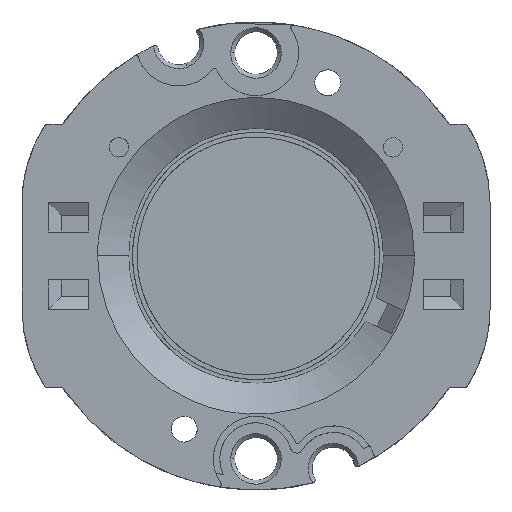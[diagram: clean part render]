
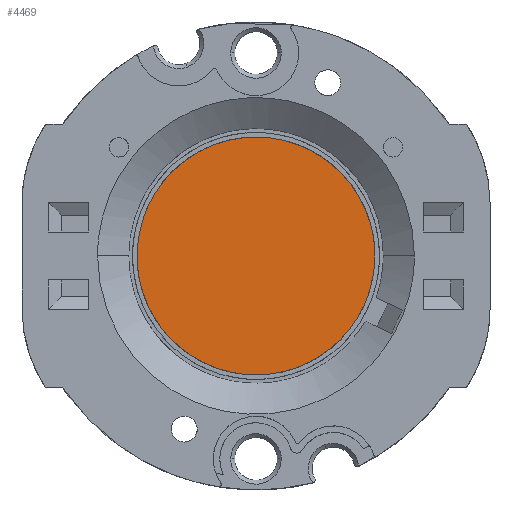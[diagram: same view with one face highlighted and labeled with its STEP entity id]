
A CAD part, top view. The second image highlights one B-rep face of the part: STEP entity #4469.
In plain terms, the highlighted planar face has unit normal (0, 0, 1).
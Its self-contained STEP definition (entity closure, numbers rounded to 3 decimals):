
#286 = CARTESIAN_POINT ( 'NONE',  ( 4.633, -8.039, 1.54 ) ) ;
#445 = PLANE ( 'NONE',  #4664 ) ;
#639 = B_SPLINE_CURVE_WITH_KNOTS ( 'NONE', 3,
 ( #3742, #3901, #9295, #1322, #7895, #2960, #3707, #8625, #2249, #6716, #2884, #3514, #10182, #10150, #4714, #7498, #1966, #5277 ),
 .UNSPECIFIED., .F., .F.,
 ( 4, 2, 2, 2, 2, 2, 2, 2, 4 ),
 ( 0., 0.125, 0.25, 0.375, 0.5, 0.625, 0.75, 0.875, 1. ),
 .UNSPECIFIED. ) ;
#1102 = CARTESIAN_POINT ( 'NONE',  ( 1.204, -9.2, 1.54 ) ) ;
#1322 = CARTESIAN_POINT ( 'NONE',  ( -8.039, 4.633, 1.54 ) ) ;
#1700 = EDGE_CURVE ( 'NONE', #10093, #8017, #639, .T. ) ;
#1883 = CARTESIAN_POINT ( 'NONE',  ( -2.408, -8.961, 1.54 ) ) ;
#1966 = CARTESIAN_POINT ( 'NONE',  ( 9.2, 1.204, 1.54 ) ) ;
#2249 = CARTESIAN_POINT ( 'NONE',  ( -1.204, 9.2, 1.54 ) ) ;
#2487 = DIRECTION ( 'NONE',  ( 0., 0., 1. ) ) ;
#2698 = CARTESIAN_POINT ( 'NONE',  ( -5.654, -7.357, 1.54 ) ) ;
#2884 = CARTESIAN_POINT ( 'NONE',  ( 2.408, 8.961, 1.54 ) ) ;
#2960 = CARTESIAN_POINT ( 'NONE',  ( -5.654, 7.357, 1.54 ) ) ;
#3036 = CARTESIAN_POINT ( 'NONE',  ( 9.2, 0., 1.54 ) ) ;
#3407 = CARTESIAN_POINT ( 'NONE',  ( 9.2, -1.204, 1.54 ) ) ;
#3510 = CARTESIAN_POINT ( 'NONE',  ( -8.039, -4.633, 1.54 ) ) ;
#3514 = CARTESIAN_POINT ( 'NONE',  ( 4.633, 8.039, 1.54 ) ) ;
#3707 = CARTESIAN_POINT ( 'NONE',  ( -4.633, 8.039, 1.54 ) ) ;
#3742 = CARTESIAN_POINT ( 'NONE',  ( -9.2, 0., 1.54 ) ) ;
#3901 = CARTESIAN_POINT ( 'NONE',  ( -9.2, 1.204, 1.54 ) ) ;
#4191 = ORIENTED_EDGE ( 'NONE', *, *, #8291, .F. ) ;
#4294 = CARTESIAN_POINT ( 'NONE',  ( 8.039, -4.633, 1.54 ) ) ;
#4332 = CARTESIAN_POINT ( 'NONE',  ( -9.2, -1.204, 1.54 ) ) ;
#4469 = ADVANCED_FACE ( 'NONE', ( #8399 ), #445, .T. ) ;
#4561 = CARTESIAN_POINT ( 'NONE',  ( -9.2, 0., 1.54 ) ) ;
#4664 = AXIS2_PLACEMENT_3D ( 'NONE', #7333, #2487, #8141 ) ;
#4714 = CARTESIAN_POINT ( 'NONE',  ( 8.039, 4.633, 1.54 ) ) ;
#5090 = CARTESIAN_POINT ( 'NONE',  ( 5.654, -7.357, 1.54 ) ) ;
#5277 = CARTESIAN_POINT ( 'NONE',  ( 9.2, 0., 1.54 ) ) ;
#5672 = EDGE_LOOP ( 'NONE', ( #4191, #8081 ) ) ;
#5897 = CARTESIAN_POINT ( 'NONE',  ( 2.408, -8.961, 1.54 ) ) ;
#6036 = B_SPLINE_CURVE_WITH_KNOTS ( 'NONE', 3,
 ( #8293, #3407, #9104, #4294, #9906, #5090, #286, #5897, #1102, #6712, #1883, #7534, #2698, #8330, #3510, #9144, #4332, #9942 ),
 .UNSPECIFIED., .F., .F.,
 ( 4, 2, 2, 2, 2, 2, 2, 2, 4 ),
 ( 0., 0.125, 0.25, 0.375, 0.5, 0.625, 0.75, 0.875, 1. ),
 .UNSPECIFIED. ) ;
#6712 = CARTESIAN_POINT ( 'NONE',  ( -1.204, -9.2, 1.54 ) ) ;
#6716 = CARTESIAN_POINT ( 'NONE',  ( 1.204, 9.2, 1.54 ) ) ;
#7333 = CARTESIAN_POINT ( 'NONE',  ( 9.2, -9.476, 1.54 ) ) ;
#7498 = CARTESIAN_POINT ( 'NONE',  ( 8.961, 2.408, 1.54 ) ) ;
#7534 = CARTESIAN_POINT ( 'NONE',  ( -4.633, -8.039, 1.54 ) ) ;
#7895 = CARTESIAN_POINT ( 'NONE',  ( -7.357, 5.654, 1.54 ) ) ;
#8017 = VERTEX_POINT ( 'NONE', #3036 ) ;
#8081 = ORIENTED_EDGE ( 'NONE', *, *, #1700, .F. ) ;
#8141 = DIRECTION ( 'NONE',  ( 0., 1., 0. ) ) ;
#8291 = EDGE_CURVE ( 'NONE', #8017, #10093, #6036, .T. ) ;
#8293 = CARTESIAN_POINT ( 'NONE',  ( 9.2, 0., 1.54 ) ) ;
#8330 = CARTESIAN_POINT ( 'NONE',  ( -7.357, -5.654, 1.54 ) ) ;
#8399 = FACE_OUTER_BOUND ( 'NONE', #5672, .T. ) ;
#8625 = CARTESIAN_POINT ( 'NONE',  ( -2.408, 8.961, 1.54 ) ) ;
#9104 = CARTESIAN_POINT ( 'NONE',  ( 8.961, -2.408, 1.54 ) ) ;
#9144 = CARTESIAN_POINT ( 'NONE',  ( -8.961, -2.408, 1.54 ) ) ;
#9295 = CARTESIAN_POINT ( 'NONE',  ( -8.961, 2.408, 1.54 ) ) ;
#9906 = CARTESIAN_POINT ( 'NONE',  ( 7.357, -5.654, 1.54 ) ) ;
#9942 = CARTESIAN_POINT ( 'NONE',  ( -9.2, 0., 1.54 ) ) ;
#10093 = VERTEX_POINT ( 'NONE', #4561 ) ;
#10150 = CARTESIAN_POINT ( 'NONE',  ( 7.357, 5.654, 1.54 ) ) ;
#10182 = CARTESIAN_POINT ( 'NONE',  ( 5.654, 7.357, 1.54 ) ) ;
